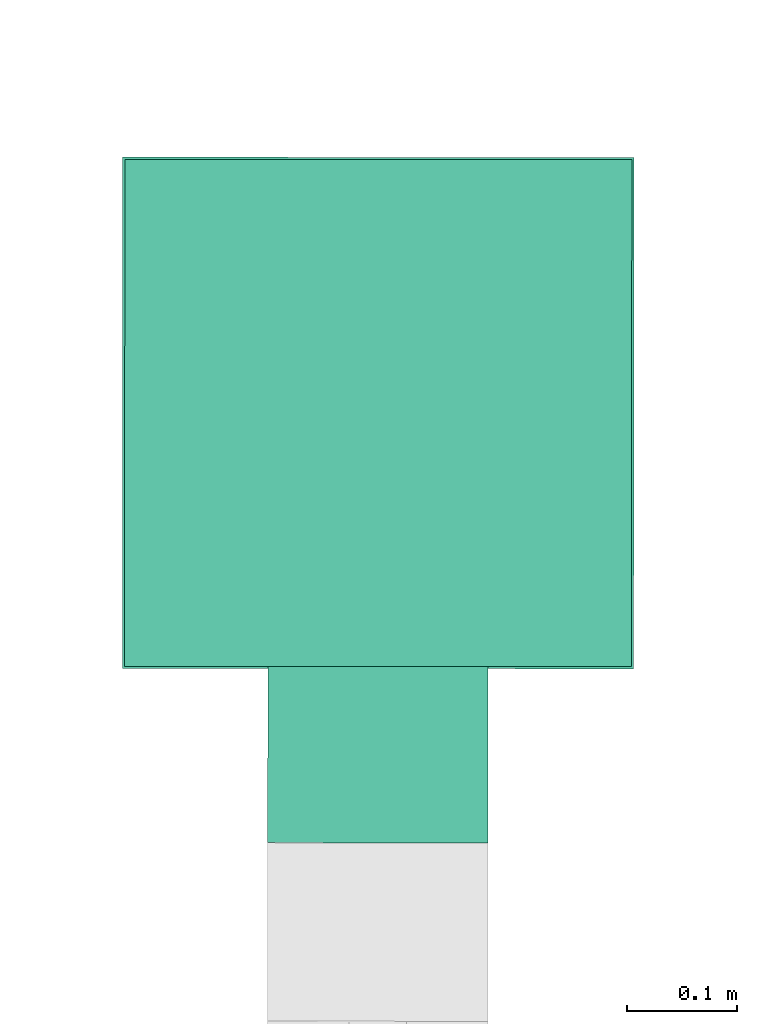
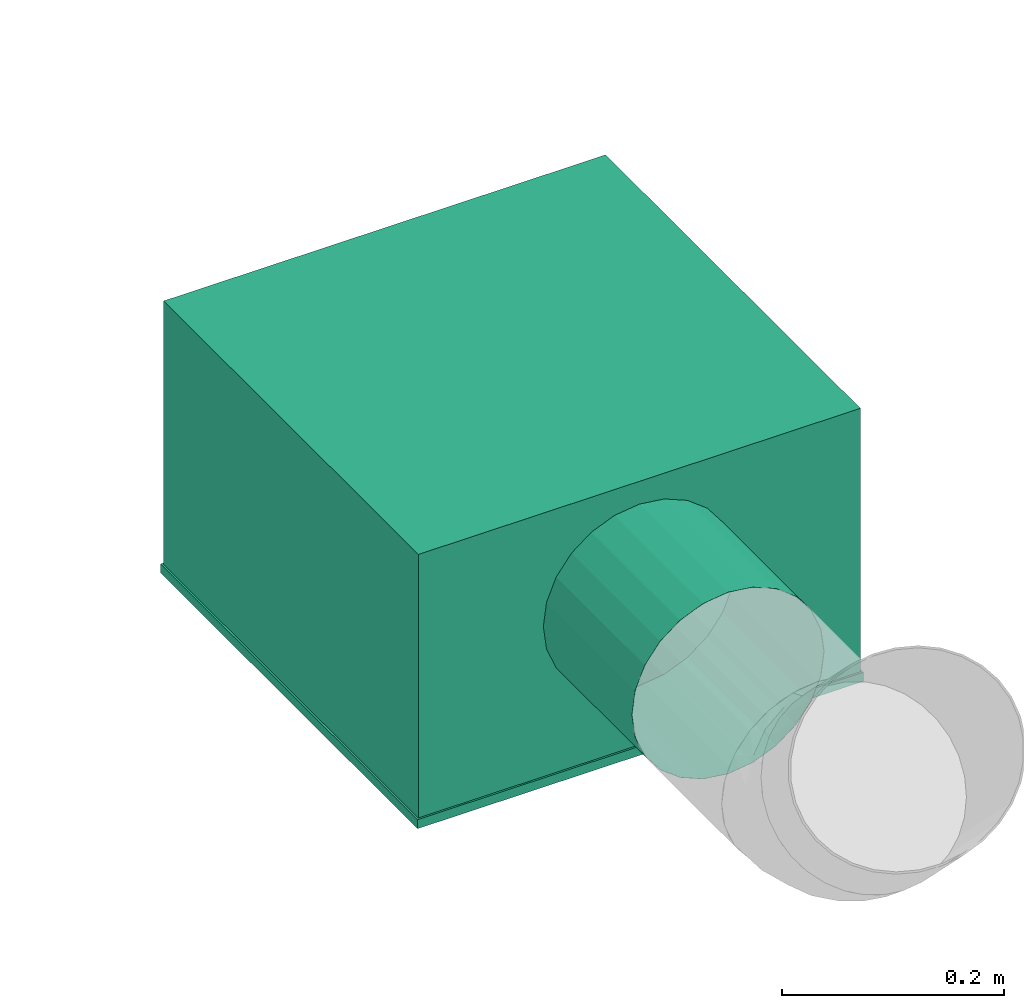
# One storey, part 16 of 63: 1 flow terminal.
"""IFC2X3 building model written with IfcOpenShell, lengths in millimetres."""

from ifc_helpers import new_model, entity, si_unit, converted_unit, derived_unit, direction, frame, origin_with_axes, place, context, subcontext, project, spatial, open_shell, surface_model, source, transform, mapped, type_object, element, save


model = new_model("IFC2X3")

# Units and contexts
model_context = context("Model", 3, precision=0.01, world=frame((0.0, 4.29681676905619e-09, 0.0)), true_north=direction((4.01073788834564e-13, 1.0)))
plan_context = context("Plan", 3, precision=0.01, world=frame((0.0, 4.29681676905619e-09, 0.0)), true_north=direction((4.01073788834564e-13, 1.0)))
body_context = subcontext(model_context, "Body", "Model", "MODEL_VIEW")
ifc_project = project(units=[converted_unit("PLANEANGLEUNIT", "DEGREE", entity("IfcPositiveLengthMeasure", 0.0174532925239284), si_unit("PLANEANGLEUNIT", "RADIAN"), dimensions=[0, 0, 0, 0, 0, 0, 0]), si_unit("AREAUNIT", "SQUARE_METRE"), si_unit("LENGTHUNIT", "METRE", prefix="MILLI"), si_unit("MASSUNIT", "GRAM", prefix="KILO"), si_unit("POWERUNIT", "WATT"), si_unit("PRESSUREUNIT", "PASCAL"), si_unit("FORCEUNIT", "NEWTON", prefix="KILO"), si_unit("ELECTRICVOLTAGEUNIT", "VOLT"), si_unit("ELECTRICCURRENTUNIT", "AMPERE"), si_unit("THERMODYNAMICTEMPERATUREUNIT", "DEGREE_CELSIUS"), si_unit("TIMEUNIT", "SECOND"), si_unit("VOLUMEUNIT", "CUBIC_METRE"), derived_unit("LINEARVELOCITYUNIT", [(si_unit("LENGTHUNIT", "METRE"), 1), (si_unit("TIMEUNIT", "SECOND"), -1)]), derived_unit("VOLUMETRICFLOWRATEUNIT", [(si_unit("VOLUMEUNIT", "CUBIC_METRE"), 1), (si_unit("TIMEUNIT", "SECOND"), -1)]), derived_unit("THERMALTRANSMITTANCEUNIT", [(si_unit("POWERUNIT", "WATT"), 1), (si_unit("THERMODYNAMICTEMPERATUREUNIT", "KELVIN"), -1), (si_unit("AREAUNIT", "SQUARE_METRE"), -1)]), derived_unit("SOUNDPRESSUREUNIT", [(si_unit("PRESSUREUNIT", "PASCAL"), 1)])], contexts=[model_context, plan_context])

# Site, building, storey
site_placement = place(None, frame((0.0, -4.29681676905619e-09, 0.0), z_axis=(0.0, 0.0, 1.0), x_axis=(1.0, 0.0, 0.0)))
site = spatial("IfcSite", under=ifc_project, at=site_placement, CompositionType="ELEMENT")
building_placement = place(site_placement, frame((0.0, 4.29681676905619e-09, 0.0), z_axis=(0.0, 0.0, 1.0), x_axis=(1.0, 0.0, 0.0)))
building = spatial("IfcBuilding", under=site, at=building_placement, Name="mc-building", CompositionType="ELEMENT")
storey_placement = place(building_placement, frame((0.0, 0.0, 210900.0), z_axis=(0.0, 0.0, 1.0), x_axis=(1.0, 0.0, 0.0)))
storey = spatial("IfcBuildingStorey", under=building, at=storey_placement, Name="Nivå F", CompositionType="ELEMENT", Elevation=210900.0)

# Flow terminal
air_terminal_type = type_object("IfcAirTerminalType", Name="NS19-H-S-2-200 - 4-way", PredefinedType="NOTDEFINED")
shared_shape = source(origin_with_axes(), body_context, "Body", "SurfaceModel", [
    surface_model("IfcShellBasedSurfaceModel", [(-231.99999, 231.99999, 0.0), (-231.99999, -231.99999, 0.0), (231.99999, -231.99999, 0.0), (231.99999, 231.99999, 0.0), (231.99999, 231.99999, -10.0), (231.99999, -231.99999, -10.0), (-231.99999, -231.99999, -10.0), (-231.99999, 231.99999, -10.0), (-230.0, 230.0, 289.99999), (-230.0, -230.0, 289.99999), (230.0, -230.0, 289.99999), (230.0, 230.0, 289.99999), (230.0, 230.0, 0.0), (230.0, -230.0, 0.0), (-230.0, -230.0, 0.0), (-230.0, 230.0, 0.0), (-230.0, 50.0, 78.39746), (-230.0, 70.71068, 94.28932), (-230.0, 49.9, 78.57067), (-230.0, 25.83014, 68.6006), (-230.0, 0.0, 65.2), (-230.0, 25.8819, 68.40742), (-230.0, 0.0, 65.0), (-230.0, 70.56926, 94.43075), (-230.0, 96.59259, 139.1181), (-230.0, 99.8, 164.99999), (-230.0, 96.39939, 139.16986), (-230.0, 100.0, 164.99999), (-230.0, 86.60254, 115.0), (-230.0, 86.42934, 115.1), (-230.0, -25.83014, 68.6006), (-230.0, -25.8819, 68.40742), (-230.0, -49.9, 78.57067), (-230.0, -70.71068, 94.28932), (-230.0, -50.0, 78.39746), (-230.0, -70.56926, 94.43075), (-230.0, -86.42934, 115.1), (-230.0, -86.60254, 115.0), (-230.0, -96.39939, 139.16986), (-230.0, -96.59259, 139.1181), (-230.0, -99.8, 164.99999), (-230.0, -100.0, 164.99999), (-230.0, 96.59259, 190.8819), (-230.0, 96.39939, 190.83014), (-230.0, 86.42934, 214.9), (-230.0, 86.60254, 214.99999), (-230.0, 70.56926, 235.56925), (-230.0, 70.71068, 235.71069), (-230.0, 50.0, 251.60254), (-230.0, 49.9, 251.42933), (-230.0, 25.83014, 261.3994), (-230.0, 25.8819, 261.59259), (-230.0, 0.0, 264.80001), (-230.0, 0.0, 264.99999), (-230.0, -86.60254, 214.99999), (-230.0, -86.42934, 214.9), (-230.0, -70.71068, 235.71069), (-230.0, -70.56926, 235.56925), (-230.0, -96.59259, 190.8819), (-230.0, -96.39939, 190.83014), (-230.0, -25.83014, 261.3994), (-230.0, -25.8819, 261.59259), (-230.0, -49.9, 251.42933), (-230.0, -50.0, 251.60254), (-390.0, 50.0, 251.60254), (-390.0, 70.71068, 235.71069), (-390.0, 49.9, 251.42933), (-390.0, 25.83014, 261.3994), (-390.0, 0.0, 264.80001), (-390.0, 25.8819, 261.59259), (-390.0, 0.0, 264.99999), (-390.0, 70.56926, 235.56925), (-390.0, 96.59259, 190.8819), (-390.0, 99.8, 164.99999), (-390.0, 96.39939, 190.83014), (-390.0, 100.0, 164.99999), (-390.0, 86.60254, 214.99999), (-390.0, 86.42934, 214.9), (-390.0, -25.83014, 261.3994), (-390.0, -25.8819, 261.59259), (-390.0, -49.9, 251.42933), (-390.0, -70.71068, 235.71069), (-390.0, -50.0, 251.60254), (-390.0, -70.56926, 235.56925), (-390.0, -86.42934, 214.9), (-390.0, -86.60254, 214.99999), (-390.0, -96.39939, 190.83014), (-390.0, -96.59259, 190.8819), (-390.0, -99.8, 164.99999), (-390.0, -100.0, 164.99999), (-390.0, 96.59259, 139.1181), (-390.0, 96.39939, 139.16986), (-390.0, 86.42934, 115.1), (-390.0, 86.60254, 115.0), (-390.0, 70.56926, 94.43075), (-390.0, 70.71068, 94.28932), (-390.0, 50.0, 78.39746), (-390.0, 49.9, 78.57067), (-390.0, 25.83014, 68.6006), (-390.0, 25.8819, 68.40742), (-390.0, 0.0, 65.2), (-390.0, 0.0, 65.0), (-390.0, -86.60254, 115.0), (-390.0, -86.42934, 115.1), (-390.0, -70.71068, 94.28932), (-390.0, -70.56926, 94.43075), (-390.0, -96.59259, 139.1181), (-390.0, -96.39939, 139.16986), (-390.0, -25.83014, 68.6006), (-390.0, -25.8819, 68.40742), (-390.0, -49.9, 78.57067), (-390.0, -50.0, 78.39746)], [open_shell([[[0, 1, 2]], [[2, 3, 0]], [[4, 5, 6]], [[6, 7, 4]], [[2, 1, 6]], [[6, 5, 2]], [[3, 2, 5]], [[5, 4, 3]], [[0, 3, 4]], [[4, 7, 0]], [[1, 0, 7]], [[7, 6, 1]], [[8, 9, 10]], [[10, 11, 8]], [[12, 13, 14]], [[14, 15, 12]], [[10, 9, 13]], [[14, 13, 9]], [[11, 10, 12]], [[13, 12, 10]], [[8, 11, 15]], [[12, 15, 11]], [[9, 8, 14]], [[15, 14, 8]], [[16, 17, 18]], [[16, 18, 19]], [[20, 21, 19]], [[21, 20, 22]], [[19, 21, 16]], [[18, 17, 23]], [[24, 25, 26]], [[25, 24, 27]], [[24, 26, 28]], [[23, 28, 29]], [[28, 23, 17]], [[29, 28, 26]], [[22, 30, 31]], [[31, 30, 32]], [[33, 34, 35]], [[32, 34, 31]], [[32, 35, 34]], [[22, 20, 30]], [[36, 37, 33]], [[37, 36, 38]], [[36, 33, 35]], [[39, 38, 40]], [[38, 39, 37]], [[39, 40, 41]], [[27, 42, 43]], [[43, 42, 44]], [[44, 45, 46]], [[45, 44, 42]], [[46, 45, 47]], [[47, 48, 49]], [[49, 48, 50]], [[50, 51, 52]], [[51, 50, 48]], [[52, 51, 53]], [[49, 46, 47]], [[54, 55, 56]], [[56, 55, 57]], [[55, 54, 58]], [[41, 59, 58]], [[58, 59, 55]], [[41, 40, 59]], [[60, 53, 61]], [[60, 61, 62]], [[57, 63, 56]], [[57, 62, 63]], [[63, 62, 61]], [[52, 53, 60]], [[43, 25, 27]], [[64, 65, 66]], [[64, 66, 67]], [[68, 69, 67]], [[69, 68, 70]], [[67, 69, 64]], [[66, 65, 71]], [[72, 73, 74]], [[73, 72, 75]], [[72, 74, 76]], [[71, 76, 77]], [[76, 71, 65]], [[77, 76, 74]], [[70, 78, 79]], [[79, 78, 80]], [[81, 82, 83]], [[80, 82, 79]], [[80, 83, 82]], [[70, 68, 78]], [[84, 85, 81]], [[85, 84, 86]], [[84, 81, 83]], [[87, 86, 88]], [[86, 87, 85]], [[87, 88, 89]], [[75, 90, 91]], [[91, 90, 92]], [[92, 93, 94]], [[93, 92, 90]], [[94, 93, 95]], [[95, 96, 97]], [[97, 96, 98]], [[98, 99, 100]], [[99, 98, 96]], [[100, 99, 101]], [[97, 94, 95]], [[102, 103, 104]], [[104, 103, 105]], [[103, 102, 106]], [[89, 107, 106]], [[106, 107, 103]], [[89, 88, 107]], [[108, 101, 109]], [[108, 109, 110]], [[105, 111, 104]], [[105, 110, 111]], [[111, 110, 109]], [[100, 101, 108]], [[91, 73, 75]], [[39, 106, 102]], [[104, 37, 102]], [[34, 111, 109]], [[104, 111, 33]], [[31, 109, 101]], [[106, 41, 89]], [[106, 39, 41]], [[102, 37, 39]], [[104, 33, 37]], [[34, 33, 111]], [[109, 31, 34]], [[101, 22, 31]], [[21, 99, 96]], [[95, 16, 96]], [[28, 93, 90]], [[95, 93, 17]], [[24, 90, 75]], [[99, 21, 22]], [[96, 16, 21]], [[95, 17, 16]], [[93, 28, 17]], [[24, 28, 90]], [[75, 27, 24]], [[99, 22, 101]], [[75, 72, 42]], [[48, 64, 69]], [[64, 47, 65]], [[51, 69, 70]], [[72, 45, 42]], [[42, 27, 75]], [[76, 47, 45]], [[76, 65, 47]], [[47, 64, 48]], [[69, 51, 48]], [[76, 45, 72]], [[70, 53, 51]], [[61, 79, 82]], [[81, 63, 82]], [[54, 85, 87]], [[81, 85, 56]], [[58, 87, 89]], [[79, 61, 53]], [[82, 63, 61]], [[81, 56, 63]], [[85, 54, 56]], [[58, 54, 87]], [[89, 41, 58]], [[79, 53, 70]], [[103, 107, 38]], [[103, 36, 105]], [[108, 110, 32]], [[35, 110, 105]], [[100, 108, 30]], [[88, 40, 107]], [[40, 38, 107]], [[38, 36, 103]], [[36, 35, 105]], [[110, 35, 32]], [[32, 30, 108]], [[30, 20, 100]], [[97, 98, 19]], [[97, 18, 94]], [[91, 92, 29]], [[23, 92, 94]], [[73, 91, 26]], [[20, 19, 98]], [[19, 18, 97]], [[18, 23, 94]], [[23, 29, 92]], [[91, 29, 26]], [[26, 25, 73]], [[100, 20, 98]], [[43, 74, 73]], [[67, 66, 49]], [[71, 46, 66]], [[68, 67, 50]], [[43, 44, 74]], [[73, 25, 43]], [[44, 46, 77]], [[46, 71, 77]], [[49, 66, 46]], [[49, 50, 67]], [[74, 44, 77]], [[50, 52, 68]], [[80, 78, 60]], [[80, 62, 83]], [[86, 84, 55]], [[57, 84, 83]], [[88, 86, 59]], [[52, 60, 78]], [[60, 62, 80]], [[62, 57, 83]], [[57, 55, 84]], [[86, 55, 59]], [[59, 40, 88]], [[68, 52, 78]]])]),
])
flow_terminal_placement = place(storey_placement, frame((530505.91759, 447200.42144, 3770.0), z_axis=(0.0, 0.0, 1.0), x_axis=(0.000647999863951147, 0.999999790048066, 0.0)))
element("IfcFlowTerminal", 1, at=flow_terminal_placement, inside=storey, type_object=air_terminal_type, Name="NS19-H-S-2-200 - 4-way", context=body_context, shape_type="MappedRepresentation", body=[
    mapped(shared_shape, transform((0.0, 0.0, 0.0), scale=1.0)),
])

save(model, "model.ifc")
